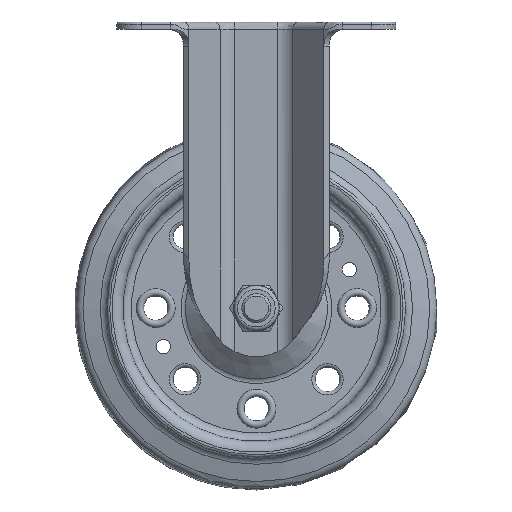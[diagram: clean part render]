
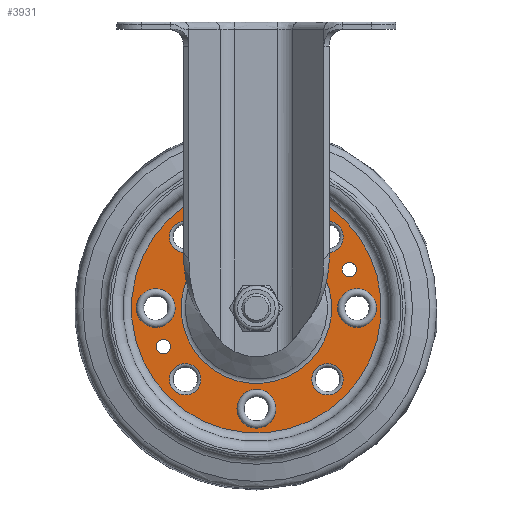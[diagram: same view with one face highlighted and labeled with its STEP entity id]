
A CAD part, left-side view. The second image highlights one B-rep face of the part: STEP entity #3931.
In plain terms, the highlighted planar face has unit normal (-1, 0, 0).
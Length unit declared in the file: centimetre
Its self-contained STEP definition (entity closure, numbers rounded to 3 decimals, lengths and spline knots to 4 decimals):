
#153=FACE_BOUND('',#1354,.T.);
#154=FACE_BOUND('',#1355,.T.);
#155=FACE_BOUND('',#1356,.T.);
#156=FACE_BOUND('',#1357,.T.);
#157=FACE_BOUND('',#1358,.T.);
#158=FACE_BOUND('',#1359,.T.);
#159=FACE_BOUND('',#1360,.T.);
#160=FACE_BOUND('',#1361,.T.);
#161=FACE_BOUND('',#1362,.T.);
#162=FACE_BOUND('',#1363,.T.);
#163=FACE_BOUND('',#1364,.T.);
#310=PLANE('',#4322);
#1046=FACE_OUTER_BOUND('',#1353,.T.);
#1353=EDGE_LOOP('',(#2407));
#1354=EDGE_LOOP('',(#2408));
#1355=EDGE_LOOP('',(#2409));
#1356=EDGE_LOOP('',(#2410));
#1357=EDGE_LOOP('',(#2411));
#1358=EDGE_LOOP('',(#2412));
#1359=EDGE_LOOP('',(#2413));
#1360=EDGE_LOOP('',(#2414));
#1361=EDGE_LOOP('',(#2415));
#1362=EDGE_LOOP('',(#2416));
#1363=EDGE_LOOP('',(#2417));
#1364=EDGE_LOOP('',(#2418));
#2407=ORIENTED_EDGE('',*,*,#3017,.F.);
#2408=ORIENTED_EDGE('',*,*,#3018,.T.);
#2409=ORIENTED_EDGE('',*,*,#3019,.T.);
#2410=ORIENTED_EDGE('',*,*,#3020,.T.);
#2411=ORIENTED_EDGE('',*,*,#3021,.T.);
#2412=ORIENTED_EDGE('',*,*,#3022,.T.);
#2413=ORIENTED_EDGE('',*,*,#3023,.T.);
#2414=ORIENTED_EDGE('',*,*,#3024,.T.);
#2415=ORIENTED_EDGE('',*,*,#3025,.T.);
#2416=ORIENTED_EDGE('',*,*,#3026,.T.);
#2417=ORIENTED_EDGE('',*,*,#3027,.T.);
#2418=ORIENTED_EDGE('',*,*,#3028,.T.);
#3017=EDGE_CURVE('',#3394,#3394,#3606,.T.);
#3018=EDGE_CURVE('',#3395,#3395,#3607,.T.);
#3019=EDGE_CURVE('',#3396,#3396,#3608,.T.);
#3020=EDGE_CURVE('',#3397,#3397,#3609,.T.);
#3021=EDGE_CURVE('',#3398,#3398,#3610,.T.);
#3022=EDGE_CURVE('',#3399,#3399,#3611,.T.);
#3023=EDGE_CURVE('',#3400,#3400,#3612,.T.);
#3024=EDGE_CURVE('',#3401,#3401,#3613,.T.);
#3025=EDGE_CURVE('',#3402,#3402,#3614,.T.);
#3026=EDGE_CURVE('',#3403,#3403,#3615,.T.);
#3027=EDGE_CURVE('',#3404,#3404,#3616,.T.);
#3028=EDGE_CURVE('',#3405,#3405,#3617,.T.);
#3394=VERTEX_POINT('',#8206);
#3395=VERTEX_POINT('',#8208);
#3396=VERTEX_POINT('',#8210);
#3397=VERTEX_POINT('',#8212);
#3398=VERTEX_POINT('',#8214);
#3399=VERTEX_POINT('',#8216);
#3400=VERTEX_POINT('',#8218);
#3401=VERTEX_POINT('',#8220);
#3402=VERTEX_POINT('',#8222);
#3403=VERTEX_POINT('',#8224);
#3404=VERTEX_POINT('',#8226);
#3405=VERTEX_POINT('',#8228);
#3606=CIRCLE('',#4323,5.15);
#3607=CIRCLE('',#4324,0.8);
#3608=CIRCLE('',#4325,0.8);
#3609=CIRCLE('',#4326,0.8);
#3610=CIRCLE('',#4327,0.8);
#3611=CIRCLE('',#4328,0.3);
#3612=CIRCLE('',#4329,0.3);
#3613=CIRCLE('',#4330,0.65);
#3614=CIRCLE('',#4331,0.65);
#3615=CIRCLE('',#4332,0.65);
#3616=CIRCLE('',#4333,0.65);
#3617=CIRCLE('',#4334,3.1053);
#3931=ADVANCED_FACE('',(#1046,#153,#154,#155,#156,#157,#158,#159,#160,#161,
#162,#163),#310,.T.);
#4322=AXIS2_PLACEMENT_3D('',#8205,#5266,#5267);
#4323=AXIS2_PLACEMENT_3D('',#8207,#5268,#5269);
#4324=AXIS2_PLACEMENT_3D('',#8209,#5270,#5271);
#4325=AXIS2_PLACEMENT_3D('',#8211,#5272,#5273);
#4326=AXIS2_PLACEMENT_3D('',#8213,#5274,#5275);
#4327=AXIS2_PLACEMENT_3D('',#8215,#5276,#5277);
#4328=AXIS2_PLACEMENT_3D('',#8217,#5278,#5279);
#4329=AXIS2_PLACEMENT_3D('',#8219,#5280,#5281);
#4330=AXIS2_PLACEMENT_3D('',#8221,#5282,#5283);
#4331=AXIS2_PLACEMENT_3D('',#8223,#5284,#5285);
#4332=AXIS2_PLACEMENT_3D('',#8225,#5286,#5287);
#4333=AXIS2_PLACEMENT_3D('',#8227,#5288,#5289);
#4334=AXIS2_PLACEMENT_3D('',#8229,#5290,#5291);
#5266=DIRECTION('center_axis',(-1.,0.,0.));
#5267=DIRECTION('ref_axis',(0.,-0.707,-0.707));
#5268=DIRECTION('center_axis',(1.,0.,0.));
#5269=DIRECTION('ref_axis',(0.,-0.707,0.707));
#5270=DIRECTION('center_axis',(1.,0.,0.));
#5271=DIRECTION('ref_axis',(0.,0.,-1.));
#5272=DIRECTION('center_axis',(1.,0.,0.));
#5273=DIRECTION('ref_axis',(0.,1.,0.));
#5274=DIRECTION('center_axis',(1.,0.,0.));
#5275=DIRECTION('ref_axis',(0.,0.,
1.));
#5276=DIRECTION('center_axis',(1.,0.,0.));
#5277=DIRECTION('ref_axis',(0.,-1.,0.));
#5278=DIRECTION('center_axis',(1.,0.,0.));
#5279=DIRECTION('ref_axis',(0.,-0.707,-0.707));
#5280=DIRECTION('center_axis',(1.,0.,0.));
#5281=DIRECTION('ref_axis',(0.,-0.707,-0.707));
#5282=DIRECTION('center_axis',(1.,0.,0.));
#5283=DIRECTION('ref_axis',(0.,-0.707,0.707));
#5284=DIRECTION('center_axis',(1.,0.,0.));
#5285=DIRECTION('ref_axis',(0.,0.707,0.707));
#5286=DIRECTION('center_axis',(1.,0.,0.));
#5287=DIRECTION('ref_axis',(0.,0.707,-0.707));
#5288=DIRECTION('center_axis',(1.,0.,0.));
#5289=DIRECTION('ref_axis',(0.,-0.707,-0.707));
#5290=DIRECTION('center_axis',(1.,0.,0.));
#5291=DIRECTION('ref_axis',(0.,-0.707,0.707));
#8205=CARTESIAN_POINT('Origin',(-0.15,-2.9187,-8.5813));
#8206=CARTESIAN_POINT('',(-0.15,-3.6416,-7.8584));
#8207=CARTESIAN_POINT('Origin',(-0.15,0.,
-11.5));
#8208=CARTESIAN_POINT('',(-0.15,0.,-8.15));
#8209=CARTESIAN_POINT('Origin',(-0.15,0.,
-7.35));
#8210=CARTESIAN_POINT('',(-0.15,-3.35,-11.5));
#8211=CARTESIAN_POINT('Origin',(-0.15,-4.15,-11.5));
#8212=CARTESIAN_POINT('',(-0.15,0.,-14.85));
#8213=CARTESIAN_POINT('Origin',(-0.15,0.,
-15.65));
#8214=CARTESIAN_POINT('',(-0.15,3.35,-11.5));
#8215=CARTESIAN_POINT('Origin',(-0.15,4.15,-11.5));
#8216=CARTESIAN_POINT('',(-0.15,-3.622,-9.6997));
#8217=CARTESIAN_POINT('Origin',(-0.15,-3.8341,-9.9119));
#8218=CARTESIAN_POINT('',(-0.15,4.0462,-12.876));
#8219=CARTESIAN_POINT('Origin',(-0.15,3.8341,-13.0881));
#8220=CARTESIAN_POINT('',(-0.15,3.3941,-9.0251));
#8221=CARTESIAN_POINT('Origin',(-0.15,2.9345,-8.5655));
#8222=CARTESIAN_POINT('',(-0.15,2.4749,-14.8941));
#8223=CARTESIAN_POINT('Origin',(-0.15,2.9345,-14.4345));
#8224=CARTESIAN_POINT('',(-0.15,-3.3941,-13.9749));
#8225=CARTESIAN_POINT('Origin',(-0.15,-2.9345,-14.4345));
#8226=CARTESIAN_POINT('',(-0.15,-2.4749,-8.1059));
#8227=CARTESIAN_POINT('Origin',(-0.15,-2.9345,-8.5655));
#8228=CARTESIAN_POINT('',(-0.15,-2.1958,-9.3042));
#8229=CARTESIAN_POINT('Origin',(-0.15,0.,
-11.5));
